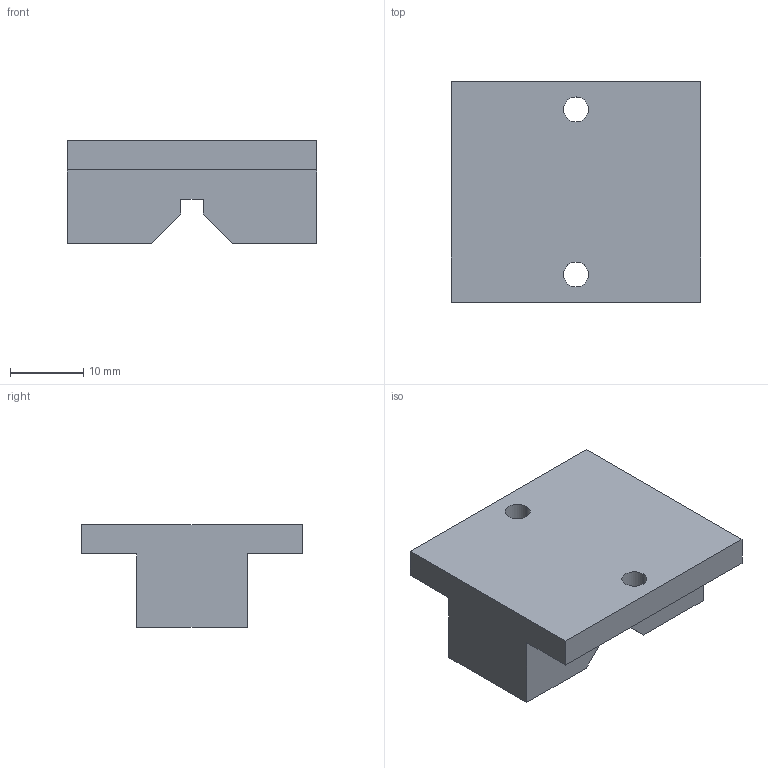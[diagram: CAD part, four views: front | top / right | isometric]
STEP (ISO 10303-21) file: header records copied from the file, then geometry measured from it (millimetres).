
FILE_DESCRIPTION (( 'STEP AP214' ), '1' );
FILE_NAME ('嘋V僈僀僪.STEP', '2024-06-25T07:58:05', ( '' ), ( '' ), 'SwSTEP 2.0', 'SolidWorks 2023', '' );
FILE_SCHEMA (( 'AUTOMOTIVE_DESIGN' ));
Length unit declared in the file: millimetre
Products named in the file (1): ④Vガイド
Bounding box: 34 x 30 x 14 mm (x, y, z)
Volume: 8597.4 mm3; surface area: 3622.8 mm2
Topology: 1 solids, 1 shells, 20 faces, 54 edges, 36 vertices
Faces by surface type: plane 16, cylinder 4
Entity records: 657 total; most frequent: CARTESIAN_POINT 111, ORIENTED_EDGE 108, DIRECTION 104, EDGE_CURVE 54, VECTOR 46, LINE 46, VERTEX_POINT 36, AXIS2_PLACEMENT_3D 29
